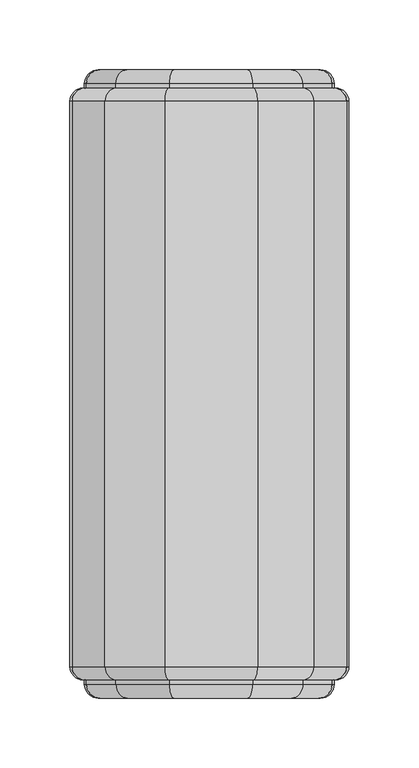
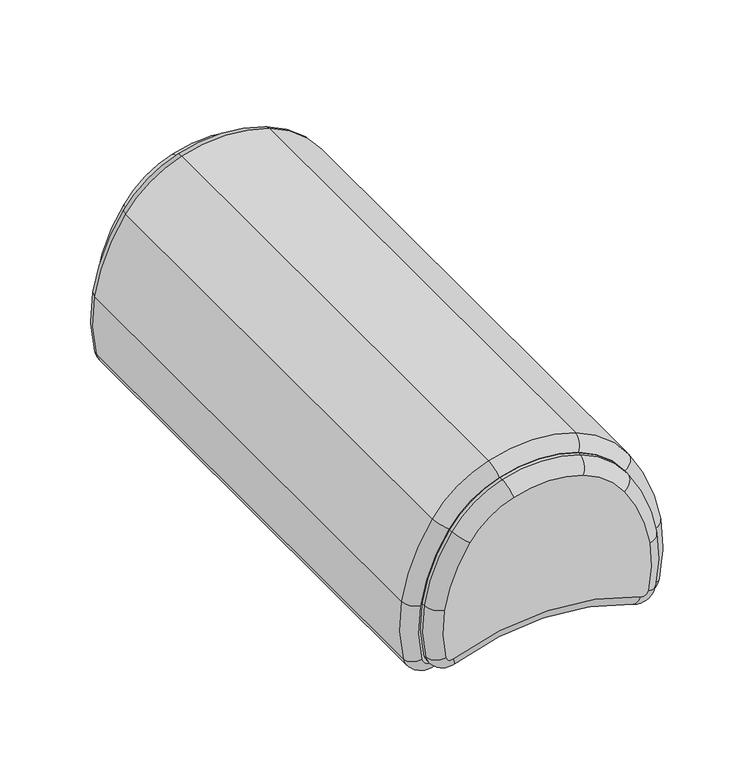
"""IFC4 building model written with IfcOpenShell, lengths in millimetres: furniture geometry, Norr11 - Studio Sofa - Armrest : Norr11 - Studio Sofa - Armrest."""

from ifc_helpers import new_model, si_unit, point, frame, origin, place, context, project, spatial, polyline, circle_curve, ellipse_curve, trimmed, source, transform, mapped, element, save
from ifc_brep_helpers import plane_surface, cylinder_surface, revolved_surface, advanced_brep


def furniture_424b01a7(model_context):
    return source(origin(), model_context, "Body", "AdvancedBrep", [
        advanced_brep(
        [(66.9447962, -204.9289958, 111.981819), (31.5157521, -204.9289958, 139.306944), (-29.0950488, -204.9289958, 140.1451483), (-66.9774771, -204.9289958, 111.9344281), (-88.9813494, -204.9289958, 57.5058221), (-87.6902973, -204.9289958, 14.1069127), (-78.8926377, -204.9289958, 9.7471256), (78.8082156, -204.9289958, 9.7860666), (87.7030919, -204.9289958, 14.1630397), (88.990785, -204.9289958, 57.4490338), (31.5157521, 218.6965585, 139.306944), (66.9447962, 218.6965585, 111.981819), (88.990785, 218.6965585, 57.4490338), (87.7030919, 218.6965585, 14.1630397), (78.8082156, 218.6965585, 9.7860666), (-78.8926377, 218.6965585, 9.7471256), (-87.6902973, 218.6965585, 14.1069127), (-88.9813494, 218.6965585, 57.5058221), (-66.9774771, 218.6965585, 111.9344281), (-29.0950488, 218.6965585, 140.1451483), (-32.0311437, -195.4856131, 149.1204936), (-32.0311437, 209.2531794, 149.1204936), (-74.7352002, 209.2531757, 117.3191482), (-74.7352002, -195.4856131, 117.3191482), (-98.3016924, 209.2531757, 59.0252579), (-98.3016924, -195.4856131, 59.0252579), (-96.9038364, 209.2531757, 12.0361219), (-96.9038364, -195.4856131, 12.0361219), (34.698922, -195.4856131, 148.1976642), (34.698922, 209.2531794, 148.1976642), (74.7352002, -195.4856131, 117.3191482), (74.7352002, 209.2531794, 117.3191482), (96.9038364, -195.4856131, 12.0361219), (96.9038364, 209.2531796, 12.0361219), (98.3016924, 209.2531757, 59.0252579), (98.3016924, -195.4856131, 59.0252579), (74.879796, -195.4856131, 1.1985759), (74.879796, 209.2531821, 1.1985759), (-74.9599776, 209.2531757, 1.161576), (-74.9599776, -195.4856131, 1.161576)],
        [
            (0, 1, circle_curve(frame((7.0375808, -204.9289958, 70.9384362), z_axis=(0.0, -1.0, 0.0), x_axis=(0.33707940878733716, 0.0, 0.9414762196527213)), 72.6184117)),
            (1, 2, circle_curve(frame((-0.0132768, -204.9289958, 51.2451098), z_axis=(0.0, -1.0, 0.0), x_axis=(-0.310915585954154, 0.0, 0.9504375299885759)), 93.5359091)),
            (2, 3, circle_curve(frame((-6.0268236, -204.9289958, 69.6279148), z_axis=(0.0, -1.0, 0.0), x_axis=(-0.8214983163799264, 0.0, 0.5702109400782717)), 74.1944959)),
            (3, 4, circle_curve(frame((42.2621047, -204.9289958, 36.1100431), z_axis=(0.0, -1.0, 0.0), x_axis=(-0.9869707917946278, 0.0, 0.16089952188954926)), 132.9760264)),
            (4, 5, circle_curve(frame((23.683606, -204.9289958, 39.1387766), z_axis=(0.0, -1.0, 0.0), x_axis=(-0.9756608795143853, 0.0, -0.2192848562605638)), 114.152269)),
            (5, 6, circle_curve(frame((-81.5244406, -204.9289958, 15.4927211), z_axis=(0.0, -1.0, 0.0), x_axis=(0.4164461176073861, 0.0, -0.9091603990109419)), 6.319672)),
            (6, 7, circle_curve(frame((0.0003235, -204.9289958, -162.4872959), z_axis=(0.0, 1.0, 0.0), x_axis=(0.41599706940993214, 0.0, 0.9093659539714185)), 189.4433827)),
            (7, 8, circle_curve(frame((81.4696803, -204.9289958, 15.6040051), z_axis=(0.0, -1.0, 0.0), x_axis=(0.9743059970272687, 0.0, -0.22522838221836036)), 6.3977967)),
            (8, 9, circle_curve(frame((-19.8443316, -204.9289958, 39.024564), z_axis=(0.0, -1.0, 0.0), x_axis=(0.9859716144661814, 0.0, 0.16691307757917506)), 110.3836206)),
            (9, 0, circle_curve(frame((-46.0093509, -204.9289958, 34.5951425), z_axis=(0.0, -1.0, 0.0), x_axis=(0.8249590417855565, 0.0, 0.5651925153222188)), 136.9209153)),
            (10, 11, circle_curve(frame((7.0375808, 218.6965585, 70.9384362), z_axis=(0.0, 1.0, 0.0), x_axis=(0.33707940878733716, 0.0, 0.9414762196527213)), 72.6184117)),
            (11, 12, circle_curve(frame((-46.0093509, 218.6965585, 34.5951425), z_axis=(0.0, 1.0, 0.0), x_axis=(0.8249590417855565, 0.0, 0.5651925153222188)), 136.9209153)),
            (12, 13, circle_curve(frame((-19.8443316, 218.6965585, 39.024564), z_axis=(0.0, 1.0, 0.0), x_axis=(0.9859716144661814, 0.0, 0.16691307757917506)), 110.3836206)),
            (13, 14, circle_curve(frame((81.4696803, 218.6965585, 15.6040051), z_axis=(0.0, 1.0, 0.0), x_axis=(0.9743059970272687, 0.0, -0.22522838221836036)), 6.3977967)),
            (14, 15, circle_curve(frame((0.0003235, 218.6965585, -162.4872959), z_axis=(0.0, -1.0, 0.0), x_axis=(0.41599706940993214, 0.0, 0.9093659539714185)), 189.4433827)),
            (15, 16, circle_curve(frame((-81.5244406, 218.6965585, 15.4927211), z_axis=(0.0, 1.0, 0.0), x_axis=(0.4164461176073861, 0.0, -0.9091603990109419)), 6.319672)),
            (16, 17, circle_curve(frame((23.683606, 218.6965585, 39.1387766), z_axis=(0.0, 1.0, 0.0), x_axis=(-0.9756608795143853, 0.0, -0.2192848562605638)), 114.152269)),
            (17, 18, circle_curve(frame((42.2621047, 218.6965585, 36.1100431), z_axis=(0.0, 1.0, 0.0), x_axis=(-0.9869707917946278, 0.0, 0.16089952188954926)), 132.9760264)),
            (18, 19, circle_curve(frame((-6.0268236, 218.6965585, 69.6279148), z_axis=(0.0, 1.0, 0.0), x_axis=(-0.8214983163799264, 0.0, 0.5702109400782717)), 74.1944959)),
            (19, 10, circle_curve(frame((-0.0132768, 218.6965585, 51.2451098), z_axis=(0.0, 1.0, 0.0), x_axis=(-0.310915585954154, 0.0, 0.9504375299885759)), 93.5359091)),
            (20, 21),
            (21, 22, circle_curve(frame((-6.0268236, 209.2531757, 69.6279148), z_axis=(0.0, -1.0, 0.0), x_axis=(1.0, 0.0, 0.0)), 83.6378787)),
            (22, 23),
            (23, 20, circle_curve(frame((-6.0268236, -195.4856131, 69.6279148), z_axis=(0.0, 1.0, 0.0), x_axis=(1.0, 0.0, 0.0)), 83.6378787)),
            (22, 24, circle_curve(frame((42.2621047, 209.2531757, 36.1100431), z_axis=(0.0, -1.0, 0.0), x_axis=(1.0, 0.0, 0.0)), 142.4194091)),
            (24, 25),
            (25, 23, circle_curve(frame((42.2621047, -195.4856131, 36.1100431), z_axis=(0.0, 1.0, 0.0), x_axis=(1.0, 0.0, 0.0)), 142.4194091)),
            (24, 26, circle_curve(frame((23.683606, 209.2531757, 39.1387766), z_axis=(0.0, -1.0, 0.0), x_axis=(1.0, 0.0, 0.0)), 123.5956518)),
            (26, 27),
            (27, 25, circle_curve(frame((23.683606, -195.4856131, 39.1387766), z_axis=(0.0, 1.0, 0.0), x_axis=(1.0, 0.0, 0.0)), 123.5956518)),
            (20, 28, circle_curve(frame((-0.0132768, -195.4856131, 51.2451098), z_axis=(0.0, 1.0, 0.0), x_axis=(1.0, 0.0, 0.0)), 102.9792919)),
            (28, 29),
            (29, 21, circle_curve(frame((-0.0132768, 209.2531757, 51.2451098), z_axis=(0.0, -1.0, 0.0), x_axis=(1.0, 0.0, 0.0)), 102.9792919)),
            (28, 30, circle_curve(frame((7.0375808, -195.4856131, 70.9384362), z_axis=(0.0, 1.0, 0.0), x_axis=(1.0, 0.0, 0.0)), 82.0617945)),
            (30, 31),
            (31, 29, circle_curve(frame((7.0375808, 209.2531757, 70.9384362), z_axis=(0.0, -1.0, 0.0), x_axis=(1.0, 0.0, 0.0)), 82.0617945)),
            (32, 33),
            (33, 34, circle_curve(frame((-19.8443316, 209.2531757, 39.024564), z_axis=(0.0, -1.0, 0.0), x_axis=(1.0, 0.0, 0.0)), 119.8270034)),
            (34, 35),
            (35, 32, circle_curve(frame((-19.8443316, -195.4856131, 39.024564), z_axis=(0.0, 1.0, 0.0), x_axis=(1.0, 0.0, 0.0)), 119.8270034)),
            (30, 35, circle_curve(frame((-46.0093509, -195.4856131, 34.5951425), z_axis=(0.0, 1.0, 0.0), x_axis=(1.0, 0.0, 0.0)), 146.3642981)),
            (34, 31, circle_curve(frame((-46.0093509, 209.2531757, 34.5951425), z_axis=(0.0, -1.0, 0.0), x_axis=(1.0, 0.0, 0.0)), 146.3642981)),
            (32, 36, circle_curve(frame((81.4696803, -195.4856131, 15.6040051), z_axis=(0.0, 1.0, 0.0), x_axis=(1.0, 0.0, 0.0)), 15.8411794)),
            (36, 37),
            (37, 33, circle_curve(frame((81.4696803, 209.2531757, 15.6040051), z_axis=(0.0, -1.0, 0.0), x_axis=(1.0, 0.0, 0.0)), 15.8411794)),
            (26, 38, circle_curve(frame((-81.5244406, 209.2531757, 15.4927211), z_axis=(0.0, -1.0, 0.0), x_axis=(1.0, 0.0, 0.0)), 15.7630547)),
            (38, 39),
            (39, 27, circle_curve(frame((-81.5244406, -195.4856131, 15.4927211), z_axis=(0.0, 1.0, 0.0), x_axis=(1.0, 0.0, 0.0)), 15.7630547)),
            (36, 39, circle_curve(frame((0.0003235, -195.4856131, -162.4872959), z_axis=(0.0, -1.0, 0.0), x_axis=(1.0, 0.0, 0.0)), 180.0)),
            (38, 37, circle_curve(frame((0.0003235, 209.2531757, -162.4872959), z_axis=(0.0, 1.0, 0.0), x_axis=(1.0, 0.0, 0.0)), 180.0)),
            (0, 30, circle_curve(frame((66.9447962, -195.4856131, 111.981819), z_axis=(-0.5651925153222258, 0.0, 0.8249590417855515), x_axis=(0.0, -1.0, 0.0)), 9.4433827)),
            (28, 1, circle_curve(frame((31.5157521, -195.4856131, 139.306944), z_axis=(0.9414762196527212, 0.0, -0.3370794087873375), x_axis=(0.0, -1.0, 0.0)), 9.4433827)),
            (31, 11, circle_curve(frame((66.9447962, 209.2531757, 111.981819), z_axis=(-0.5651925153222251, 0.0, 0.824959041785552), x_axis=(0.0, 1.0, 0.0)), 9.4433827)),
            (10, 29, circle_curve(frame((31.5157521, 209.2531757, 139.306944), z_axis=(0.9414762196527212, 0.0, -0.3370794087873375), x_axis=(0.0, 1.0, 0.0)), 9.4433827)),
            (9, 35, circle_curve(frame((88.990785, -195.4856131, 57.4490338), z_axis=(-0.16691307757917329, 0.0, 0.9859716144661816), x_axis=(0.0, -1.0, 0.0)), 9.4433827)),
            (34, 12, circle_curve(frame((88.990785, 209.2531757, 57.4490338), z_axis=(-0.16691307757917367, 0.0, 0.9859716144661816), x_axis=(0.0, 1.0, 0.0)), 9.4433827)),
            (8, 32, circle_curve(frame((87.7030919, -195.4856131, 14.1630397), z_axis=(0.2252283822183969, 0.0, 0.9743059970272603), x_axis=(0.0, -1.0, 0.0)), 9.4433827)),
            (33, 13, circle_curve(frame((87.7030919, 209.2531757, 14.1630397), z_axis=(0.2252283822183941, 0.0, 0.974305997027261), x_axis=(0.0, 1.0, 0.0)), 9.4433827)),
            (7, 36, circle_curve(frame((78.8082156, -195.4856131, 9.7860666), z_axis=(0.9093659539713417, 0.0, -0.4159970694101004), x_axis=(0.0, -1.0, 0.0)), 9.4433827)),
            (37, 14, circle_curve(frame((78.8082156, 209.2531757, 9.7860666), z_axis=(0.9093659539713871, 0.0, -0.41599706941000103), x_axis=(0.0, 1.0, 0.0)), 9.4433827)),
            (6, 39, circle_curve(frame((-78.8926377, -195.4856131, 9.7471256), z_axis=(0.9091603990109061, 0.0, 0.41644611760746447), x_axis=(0.0, -1.0, 0.0)), 9.4433827)),
            (38, 15, circle_curve(frame((-78.8926377, 209.2531757, 9.7471256), z_axis=(0.9091603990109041, 0.0, 0.4164461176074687), x_axis=(0.0, 1.0, 0.0)), 9.4433827)),
            (5, 27, circle_curve(frame((-87.6902973, -195.4856131, 14.1069127), z_axis=(0.21928485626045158, 0.0, -0.9756608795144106), x_axis=(0.0, -1.0, 0.0)), 9.4433827)),
            (26, 16, circle_curve(frame((-87.6902973, 209.2531757, 14.1069127), z_axis=(0.21928485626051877, 0.0, -0.9756608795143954), x_axis=(0.0, 1.0, 0.0)), 9.4433827)),
            (4, 25, circle_curve(frame((-88.9813494, -195.4856131, 57.5058221), z_axis=(-0.1608995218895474, 0.0, -0.986970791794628), x_axis=(0.0, -1.0, 0.0)), 9.4433827)),
            (24, 17, circle_curve(frame((-88.9813494, 209.2531757, 57.5058221), z_axis=(-0.16089952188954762, 0.0, -0.986970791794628), x_axis=(0.0, 1.0, 0.0)), 9.4433827)),
            (3, 23, circle_curve(frame((-66.9774771, -195.4856131, 111.9344281), z_axis=(-0.5702109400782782, 0.0, -0.8214983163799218), x_axis=(0.0, -1.0, 0.0)), 9.4433827)),
            (22, 18, circle_curve(frame((-66.9774771, 209.2531757, 111.9344281), z_axis=(-0.5702109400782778, 0.0, -0.8214983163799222), x_axis=(0.0, 1.0, 0.0)), 9.4433827)),
            (2, 20, circle_curve(frame((-29.0950488, -195.4856131, 140.1451483), z_axis=(-0.950437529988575, 0.0, -0.31091558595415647), x_axis=(0.0, -1.0, 0.0)), 9.4433827)),
            (21, 19, circle_curve(frame((-29.0950488, 209.2531757, 140.1451483), z_axis=(-0.9504375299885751, 0.0, -0.31091558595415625), x_axis=(0.0, 1.0, 0.0)), 9.4433827)),
        ],
        [
            plane_surface(frame((77.611055, -204.9289958, 69.6279148), z_axis=(0.0, -1.0, 0.0), x_axis=(0.0, 0.0, 1.0))),
            plane_surface(frame((77.611055, 218.6965585, 69.6279148), z_axis=(0.0, 1.0, 0.0), x_axis=(0.0, 0.0, -1.0))),
            cylinder_surface(frame((-6.0268236, 218.6965585, 69.6279148), z_axis=(0.0, -1.0, 0.0), x_axis=(1.0, 0.0, 0.0)), 83.6378787),
            cylinder_surface(frame((42.2621047, 218.6965585, 36.1100431), z_axis=(0.0, -1.0, 0.0), x_axis=(1.0, 0.0, 0.0)), 142.4194091),
            cylinder_surface(frame((23.683606, 218.6965585, 39.1387766), z_axis=(0.0, -1.0, 0.0), x_axis=(1.0, 0.0, 0.0)), 123.5956518),
            cylinder_surface(frame((-0.0132768, 218.6965585, 51.2451098), z_axis=(0.0, -1.0, 0.0), x_axis=(1.0, 0.0, 0.0)), 102.9792919),
            cylinder_surface(frame((7.0375808, 218.6965585, 70.9384362), z_axis=(0.0, -1.0, 0.0), x_axis=(1.0, 0.0, 0.0)), 82.0617945),
            cylinder_surface(frame((-19.8443316, 218.6965585, 39.024564), z_axis=(0.0, -1.0, 0.0), x_axis=(1.0, 0.0, 0.0)), 119.8270034),
            cylinder_surface(frame((-46.0093509, 218.6965585, 34.5951425), z_axis=(0.0, -1.0, 0.0), x_axis=(1.0, 0.0, 0.0)), 146.3642981),
            cylinder_surface(frame((81.4696803, 218.6965585, 15.6040051), z_axis=(0.0, -1.0, 0.0), x_axis=(1.0, 0.0, 0.0)), 15.8411794),
            cylinder_surface(frame((-81.5244406, 218.6965585, 15.4927211), z_axis=(0.0, -1.0, 0.0), x_axis=(1.0, 0.0, 0.0)), 15.7630547),
            revolved_surface(polyline([(180.0003235, 209.2531821, -162.4872959), (180.0003235, -195.4856131, -162.4872959)]), (0.0003235, 218.6965585, -162.4872959), (0.0, 1.0, 0.0)),
            revolved_surface(trimmed(ellipse_curve(frame((31.5157521, -195.4856131, 139.306944), z_axis=(-0.9414762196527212, 0.0, 0.3370794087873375), x_axis=(0.0, -1.0, 0.0)), 9.4433827, 9.4433827), [point((31.5157521, -204.9289958, 139.306944))], [point((34.698922, -195.4856131, 148.1976642))], True, "CARTESIAN"), (7.0375808, -204.9289958, 70.9384362), (0.0, 1.0, 0.0)),
            revolved_surface(trimmed(ellipse_curve(frame((31.5157521, 209.2531757, 139.306944), z_axis=(-0.9414762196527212, 0.0, 0.3370794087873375), x_axis=(0.0, 1.0, 0.0)), 9.4433827, 9.4433827), [point((34.698922, 209.2531757, 148.1976642))], [point((31.5157521, 218.6965585, 139.306944))], True, "CARTESIAN"), (7.0375808, -204.9289958, 70.9384362), (0.0, 1.0, 0.0)),
            revolved_surface(trimmed(ellipse_curve(frame((66.9447962, -195.4856131, 111.981819), z_axis=(-0.5651925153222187, 0.0, 0.8249590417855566), x_axis=(0.0, -1.0, 0.0)), 9.4433827, 9.4433827), [point((66.9447962, -204.9289958, 111.981819))], [point((74.7352002, -195.4856131, 117.3191482))], True, "CARTESIAN"), (-46.0093509, -204.9289958, 34.5951425), (0.0, 1.0, 0.0)),
            revolved_surface(trimmed(ellipse_curve(frame((66.9447962, 209.2531757, 111.981819), z_axis=(-0.5651925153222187, 0.0, 0.8249590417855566), x_axis=(0.0, 1.0, 0.0)), 9.4433827, 9.4433827), [point((74.7352002, 209.2531757, 117.3191482))], [point((66.9447962, 218.6965585, 111.981819))], True, "CARTESIAN"), (-46.0093509, -204.9289958, 34.5951425), (0.0, 1.0, 0.0)),
            revolved_surface(trimmed(ellipse_curve(frame((88.990785, -195.4856131, 57.4490338), z_axis=(-0.16691307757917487, 0.0, 0.9859716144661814), x_axis=(0.0, -1.0, 0.0)), 9.4433827, 9.4433827), [point((88.990785, -204.9289958, 57.4490338))], [point((98.3016924, -195.4856131, 59.0252579))], True, "CARTESIAN"), (-19.8443316, -204.9289958, 39.024564), (0.0, 1.0, 0.0)),
            revolved_surface(trimmed(ellipse_curve(frame((88.990785, 209.2531757, 57.4490338), z_axis=(-0.16691307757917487, 0.0, 0.9859716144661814), x_axis=(0.0, 1.0, 0.0)), 9.4433827, 9.4433827), [point((98.3016924, 209.2531757, 59.0252579))], [point((88.990785, 218.6965585, 57.4490338))], True, "CARTESIAN"), (-19.8443316, -204.9289958, 39.024564), (0.0, 1.0, 0.0)),
            revolved_surface(trimmed(ellipse_curve(frame((87.7030919, -195.4856131, 14.1630397), z_axis=(0.22522838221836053, 0.0, 0.9743059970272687), x_axis=(0.0, -1.0, 0.0)), 9.4433827, 9.4433827), [point((87.7030919, -204.9289958, 14.1630397))], [point((96.9038364, -195.4856131, 12.0361219))], True, "CARTESIAN"), (81.4696803, -204.9289958, 15.6040051), (0.0, 1.0, 0.0)),
            revolved_surface(trimmed(ellipse_curve(frame((87.7030919, 209.2531757, 14.1630397), z_axis=(0.22522838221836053, 0.0, 0.9743059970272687), x_axis=(0.0, 1.0, 0.0)), 9.4433827, 9.4433827), [point((96.9038364, 209.2531757, 12.0361219))], [point((87.7030919, 218.6965585, 14.1630397))], True, "CARTESIAN"), (81.4696803, -204.9289958, 15.6040051), (0.0, 1.0, 0.0)),
            revolved_surface(trimmed(ellipse_curve(frame((78.8082156, -195.4856131, 9.7860666), z_axis=(0.9093659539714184, 0.0, -0.4159970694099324), x_axis=(0.0, -1.0, 0.0)), 9.4433827, 9.4433827), [point((78.8082156, -204.9289958, 9.7860666))], [point((74.879796, -195.4856131, 1.1985759))], True, "CARTESIAN"), (0.0003235, -204.9289958, -162.4872959), (0.0, -1.0, 0.0)),
            revolved_surface(trimmed(ellipse_curve(frame((78.8082156, 209.2531757, 9.7860666), z_axis=(0.9093659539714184, 0.0, -0.4159970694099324), x_axis=(0.0, 1.0, 0.0)), 9.4433827, 9.4433827), [point((74.879796, 209.2531757, 1.1985759))], [point((78.8082156, 218.6965585, 9.7860666))], True, "CARTESIAN"), (0.0003235, -204.9289958, -162.4872959), (0.0, -1.0, 0.0)),
            revolved_surface(trimmed(ellipse_curve(frame((-78.8926377, -195.4856131, 9.7471256), z_axis=(0.909160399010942, 0.0, 0.41644611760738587), x_axis=(0.0, -1.0, 0.0)), 9.4433827, 9.4433827), [point((-78.8926377, -204.9289958, 9.7471256))], [point((-74.9599776, -195.4856131, 1.161576))], True, "CARTESIAN"), (-81.5244406, -204.9289958, 15.4927211), (0.0, 1.0, 0.0)),
            revolved_surface(trimmed(ellipse_curve(frame((-78.8926377, 209.2531757, 9.7471256), z_axis=(0.909160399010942, 0.0, 0.41644611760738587), x_axis=(0.0, 1.0, 0.0)), 9.4433827, 9.4433827), [point((-74.9599776, 209.2531757, 1.161576))], [point((-78.8926377, 218.6965585, 9.7471256))], True, "CARTESIAN"), (-81.5244406, -204.9289958, 15.4927211), (0.0, 1.0, 0.0)),
            revolved_surface(trimmed(ellipse_curve(frame((-87.6902973, -195.4856131, 14.1069127), z_axis=(0.21928485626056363, 0.0, -0.9756608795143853), x_axis=(0.0, -1.0, 0.0)), 9.4433827, 9.4433827), [point((-87.6902973, -204.9289958, 14.1069127))], [point((-96.9038364, -195.4856131, 12.0361219))], True, "CARTESIAN"), (23.683606, -204.9289958, 39.1387766), (0.0, 1.0, 0.0)),
            revolved_surface(trimmed(ellipse_curve(frame((-87.6902973, 209.2531757, 14.1069127), z_axis=(0.21928485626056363, 0.0, -0.9756608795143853), x_axis=(0.0, 1.0, 0.0)), 9.4433827, 9.4433827), [point((-96.9038364, 209.2531757, 12.0361219))], [point((-87.6902973, 218.6965585, 14.1069127))], True, "CARTESIAN"), (23.683606, -204.9289958, 39.1387766), (0.0, 1.0, 0.0)),
            revolved_surface(trimmed(ellipse_curve(frame((-88.9813494, -195.4856131, 57.5058221), z_axis=(-0.16089952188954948, 0.0, -0.9869707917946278), x_axis=(0.0, -1.0, 0.0)), 9.4433827, 9.4433827), [point((-88.9813494, -204.9289958, 57.5058221))], [point((-98.3016924, -195.4856131, 59.0252579))], True, "CARTESIAN"), (42.2621047, -204.9289958, 36.1100431), (0.0, 1.0, 0.0)),
            revolved_surface(trimmed(ellipse_curve(frame((-88.9813494, 209.2531757, 57.5058221), z_axis=(-0.16089952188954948, 0.0, -0.9869707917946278), x_axis=(0.0, 1.0, 0.0)), 9.4433827, 9.4433827), [point((-98.3016924, 209.2531757, 59.0252579))], [point((-88.9813494, 218.6965585, 57.5058221))], True, "CARTESIAN"), (42.2621047, -204.9289958, 36.1100431), (0.0, 1.0, 0.0)),
            revolved_surface(trimmed(ellipse_curve(frame((-66.9774771, -195.4856131, 111.9344281), z_axis=(-0.5702109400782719, 0.0, -0.8214983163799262), x_axis=(0.0, -1.0, 0.0)), 9.4433827, 9.4433827), [point((-66.9774771, -204.9289958, 111.9344281))], [point((-74.7352002, -195.4856131, 117.3191482))], True, "CARTESIAN"), (-6.0268236, -204.9289958, 69.6279148), (0.0, 1.0, 0.0)),
            revolved_surface(trimmed(ellipse_curve(frame((-66.9774771, 209.2531757, 111.9344281), z_axis=(-0.5702109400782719, 0.0, -0.8214983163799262), x_axis=(0.0, 1.0, 0.0)), 9.4433827, 9.4433827), [point((-74.7352002, 209.2531757, 117.3191482))], [point((-66.9774771, 218.6965585, 111.9344281))], True, "CARTESIAN"), (-6.0268236, -204.9289958, 69.6279148), (0.0, 1.0, 0.0)),
            revolved_surface(trimmed(ellipse_curve(frame((-29.0950488, -195.4856131, 140.1451483), z_axis=(-0.950437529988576, 0.0, -0.3109155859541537), x_axis=(0.0, -1.0, 0.0)), 9.4433827, 9.4433827), [point((-29.0950488, -204.9289958, 140.1451483))], [point((-32.0311437, -195.4856131, 149.1204936))], True, "CARTESIAN"), (-0.0132768, -204.9289958, 51.2451098), (0.0, 1.0, 0.0)),
            revolved_surface(trimmed(ellipse_curve(frame((-29.0950488, 209.2531757, 140.1451483), z_axis=(-0.950437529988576, 0.0, -0.3109155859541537), x_axis=(0.0, 1.0, 0.0)), 9.4433827, 9.4433827), [point((-32.0311437, 209.2531757, 149.1204936))], [point((-29.0950488, 218.6965585, 140.1451483))], True, "CARTESIAN"), (-0.0132768, -204.9289958, 51.2451098), (0.0, 1.0, 0.0)),
        ],
        [
            (0, [[1, 2, 3, 4, 5, 6, 7, 8, 9, 10]]),
            (1, [[11, 12, 13, 14, 15, 16, 17, 18, 19, 20]]),
            (2, [[21, 22, 23, 24]]),
            (3, [[-23, 25, 26, 27]]),
            (4, [[-26, 28, 29, 30]]),
            (5, [[-21, 31, 32, 33]]),
            (6, [[-32, 34, 35, 36]]),
            (7, [[37, 38, 39, 40]]),
            (8, [[-35, 41, -39, 42]]),
            (9, [[-37, 43, 44, 45]]),
            (10, [[-29, 46, 47, 48]]),
            (11, [[-44, 49, -47, 50]]),
            (12, [[51, -34, 52, -1]]),
            (13, [[53, -11, 54, -36]]),
            (14, [[-51, -10, 55, -41]]),
            (15, [[-53, -42, 56, -12]]),
            (16, [[-55, -9, 57, -40]]),
            (17, [[-56, -38, 58, -13]]),
            (18, [[-57, -8, 59, -43]]),
            (19, [[-58, -45, 60, -14]]),
            (20, [[-59, -7, 61, -49]]),
            (21, [[-60, -50, 62, -15]]),
            (22, [[-61, -6, 63, -48]]),
            (23, [[-62, -46, 64, -16]]),
            (24, [[-63, -5, 65, -30]]),
            (25, [[-64, -28, 66, -17]]),
            (26, [[-65, -4, 67, -27]]),
            (27, [[-66, -25, 68, -18]]),
            (28, [[-67, -3, 69, -24]]),
            (29, [[-68, -22, 70, -19]]),
            (30, [[-52, -31, -69, -2]]),
            (31, [[-54, -20, -70, -33]]),
        ],
    ),
        advanced_brep(
        [(-28.6752194, -204.9289958, 140.2119602), (31.0634928, -204.9289958, 139.3858163), (66.9051434, -204.9289958, 111.742463), (88.0025585, -204.9289958, 59.5560624), (86.7511568, -204.9289958, 17.4900095), (67.60559, -204.9289958, 7.5417031), (-67.7048989, -204.9289958, 7.5228429), (-86.7511568, -204.9289958, 17.4900095), (-88.0025585, -204.9289958, 59.5560624), (-66.9051434, -204.9289958, 111.742463), (58.655553, -218.0373157, 106.0905378), (27.6926987, -218.0373157, 129.9710541), (-25.5660636, -218.0373157, 130.7075849), (-58.6901602, -218.0373157, 106.0403536), (-78.1328506, -218.0373157, 57.9470672), (-76.994548, -218.0373157, 19.6828581), (-71.4648153, -218.0373157, 16.7890735), (71.362923, -218.0373157, 16.8089814), (77.0080968, -218.0373157, 19.7422933), (78.1428423, -218.0373157, 57.8869316), (-66.9051434, -208.0373157, 111.742463), (-28.6752194, -208.0373157, 140.2119602), (-88.0025585, -208.0373157, 59.5560624), (-86.7511568, -208.0373157, 17.4900095), (-67.7048989, -208.0373157, 7.5228429), (31.0634928, -208.0373157, 139.3858163), (66.9051434, -208.0373157, 111.742463), (88.0025585, -208.0373157, 59.5560624), (86.7511568, -208.0373157, 17.4900095), (67.60559, -208.0373157, 7.5417031)],
        [
            (0, 1, circle_curve(frame((-0.0118858, -204.9289958, 52.5910456), z_axis=(0.0, 1.0, 0.0), x_axis=(1.0, 0.0, 0.0)), 92.1900828)),
            (1, 2, circle_curve(frame((6.3002488, -204.9289958, 70.2210891), z_axis=(0.0, 1.0, 0.0), x_axis=(1.0, 0.0, 0.0)), 73.4641255)),
            (2, 3, circle_curve(frame((-41.1889205, -204.9289958, 37.6855065), z_axis=(0.0, 1.0, 0.0), x_axis=(1.0, 0.0, 0.0)), 131.0296129)),
            (3, 4, circle_curve(frame((-17.7652277, -204.9289958, 41.6508545), z_axis=(0.0, 1.0, 0.0), x_axis=(1.0, 0.0, 0.0)), 107.2726483)),
            (4, 5, circle_curve(frame((72.9340475, -204.9289958, 20.6840832), z_axis=(0.0, 1.0, 0.0), x_axis=(1.0, 0.0, 0.0)), 14.1814885)),
            (5, 6, circle_curve(frame((-0.0264049, -204.9289958, -159.2693076), z_axis=(0.0, -1.0, 0.0), x_axis=(1.0, 0.0, 0.0)), 180.0)),
            (6, 7, circle_curve(frame((-73.0030311, -204.9289958, 20.5799723), z_axis=(0.0, 1.0, 0.0), x_axis=(1.0, 0.0, 0.0)), 14.0910905)),
            (7, 8, circle_curve(frame((21.2022588, -204.9289958, 41.753101), z_axis=(0.0, 1.0, 0.0), x_axis=(1.0, 0.0, 0.0)), 110.6464529)),
            (8, 9, circle_curve(frame((37.8342758, -204.9289958, 39.0416899), z_axis=(0.0, 1.0, 0.0), x_axis=(1.0, 0.0, 0.0)), 127.4980327)),
            (9, 0, circle_curve(frame((-5.3953893, -204.9289958, 69.0478719), z_axis=(0.0, 1.0, 0.0), x_axis=(1.0, 0.0, 0.0)), 74.8750824)),
            (10, 11, circle_curve(frame((6.3002488, -218.0373157, 70.2210891), z_axis=(0.0, -1.0, 0.0), x_axis=(0.33707940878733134, 0.0, 0.9414762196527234)), 63.4641255)),
            (11, 12, circle_curve(frame((-0.0118858, -218.0373157, 52.5910456), z_axis=(0.0, -1.0, 0.0), x_axis=(-0.3109155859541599, 0.0, 0.950437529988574)), 82.1900828)),
            (12, 13, circle_curve(frame((-5.3953893, -218.0373157, 69.0478719), z_axis=(0.0, -1.0, 0.0), x_axis=(-0.82149831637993, 0.0, 0.5702109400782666)), 64.8750824)),
            (13, 14, circle_curve(frame((37.8342758, -218.0373157, 39.0416899), z_axis=(0.0, -1.0, 0.0), x_axis=(-0.9869707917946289, 0.0, 0.16089952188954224)), 117.4980327)),
            (14, 15, circle_curve(frame((21.2022588, -218.0373157, 41.753101), z_axis=(0.0, -1.0, 0.0), x_axis=(-0.9756608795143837, 0.0, -0.21928485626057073)), 100.6464529)),
            (15, 16, circle_curve(frame((-73.0030311, -218.0373157, 20.5799723), z_axis=(0.0, -1.0, 0.0), x_axis=(0.37599163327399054, 0.0, -0.9266230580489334)), 4.0910905)),
            (16, 17, circle_curve(frame((-0.0264049, -218.0373157, -159.2693076), z_axis=(0.0, 1.0, 0.0), x_axis=(0.37573330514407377, 0.0, 0.9267278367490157)), 190.0)),
            (17, 18, circle_curve(frame((72.9340475, -218.0373157, 20.6840832), z_axis=(0.0, -1.0, 0.0), x_axis=(0.9743059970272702, 0.0, -0.22522838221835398)), 4.1814885)),
            (18, 19, circle_curve(frame((-17.7652277, -218.0373157, 41.6508545), z_axis=(0.0, -1.0, 0.0), x_axis=(0.9859716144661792, 0.0, 0.16691307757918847)), 97.2726483)),
            (19, 10, circle_curve(frame((-41.1889205, -218.0373157, 37.6855065), z_axis=(0.0, -1.0, 0.0), x_axis=(0.8249590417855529, 0.0, 0.5651925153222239)), 121.0296129)),
            (9, 20),
            (20, 21, circle_curve(frame((-5.3953893, -208.0373157, 69.0478719), z_axis=(0.0, 1.0, 0.0), x_axis=(1.0, 0.0, 0.0)), 74.8750824)),
            (21, 0),
            (8, 22),
            (22, 20, circle_curve(frame((37.8342758, -208.0373157, 39.0416899), z_axis=(0.0, 1.0, 0.0), x_axis=(1.0, 0.0, 0.0)), 127.4980327)),
            (7, 23),
            (23, 22, circle_curve(frame((21.2022588, -208.0373157, 41.753101), z_axis=(0.0, 1.0, 0.0), x_axis=(1.0, 0.0, 0.0)), 110.6464529)),
            (6, 24),
            (24, 23, circle_curve(frame((-73.0030311, -208.0373157, 20.5799723), z_axis=(0.0, 1.0, 0.0), x_axis=(1.0, 0.0, 0.0)), 14.0910905)),
            (21, 25, circle_curve(frame((-0.0118858, -208.0373157, 52.5910456), z_axis=(0.0, 1.0, 0.0), x_axis=(1.0, 0.0, 0.0)), 92.1900828)),
            (25, 1),
            (25, 26, circle_curve(frame((6.3002488, -208.0373157, 70.2210891), z_axis=(0.0, 1.0, 0.0), x_axis=(1.0, 0.0, 0.0)), 73.4641255)),
            (26, 2),
            (3, 27),
            (27, 28, circle_curve(frame((-17.7652277, -208.0373157, 41.6508545), z_axis=(0.0, 1.0, 0.0), x_axis=(1.0, 0.0, 0.0)), 107.2726483)),
            (28, 4),
            (26, 27, circle_curve(frame((-41.1889205, -208.0373157, 37.6855065), z_axis=(0.0, 1.0, 0.0), x_axis=(1.0, 0.0, 0.0)), 131.0296129)),
            (28, 29, circle_curve(frame((72.9340475, -208.0373157, 20.6840832), z_axis=(0.0, 1.0, 0.0), x_axis=(1.0, 0.0, 0.0)), 14.1814885)),
            (29, 5),
            (29, 24, circle_curve(frame((-0.0264049, -208.0373157, -159.2693076), z_axis=(0.0, -1.0, 0.0), x_axis=(1.0, 0.0, 0.0)), 180.0)),
            (10, 26, circle_curve(frame((58.655553, -208.0373157, 106.0905378), z_axis=(-0.5651925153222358, 0.0, 0.8249590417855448), x_axis=(0.0, -1.0, 0.0)), 10.0)),
            (25, 11, circle_curve(frame((27.6926987, -208.0373157, 129.9710541), z_axis=(0.9414762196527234, 0.0, -0.3370794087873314), x_axis=(0.0, -1.0, 0.0)), 10.0)),
            (19, 27, circle_curve(frame((78.1428423, -208.0373157, 57.8869316), z_axis=(-0.16691307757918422, 0.0, 0.9859716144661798), x_axis=(0.0, -1.0, 0.0)), 10.0)),
            (18, 28, circle_curve(frame((77.0080968, -208.0373157, 19.7422933), z_axis=(0.2252283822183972, 0.0, 0.9743059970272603), x_axis=(0.0, -1.0, 0.0)), 10.0)),
            (17, 29, circle_curve(frame((71.362923, -208.0373157, 16.8089814), z_axis=(0.9267278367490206, 0.0, -0.37573330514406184), x_axis=(0.0, -1.0, 0.0)), 10.0)),
            (16, 24, circle_curve(frame((-71.4648153, -208.0373157, 16.7890735), z_axis=(0.9266230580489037, 0.0, 0.3759916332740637), x_axis=(0.0, -1.0, 0.0)), 10.0)),
            (15, 23, circle_curve(frame((-76.994548, -208.0373157, 19.6828581), z_axis=(0.21928485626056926, 0.0, -0.975660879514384), x_axis=(0.0, -1.0, 0.0)), 10.0)),
            (14, 22, circle_curve(frame((-78.1328506, -208.0373157, 57.9470672), z_axis=(-0.16089952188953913, 0.0, -0.9869707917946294), x_axis=(0.0, -1.0, 0.0)), 10.0)),
            (13, 20, circle_curve(frame((-58.6901602, -208.0373157, 106.0403536), z_axis=(-0.5702109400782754, 0.0, -0.8214983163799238), x_axis=(0.0, -1.0, 0.0)), 10.0)),
            (12, 21, circle_curve(frame((-25.5660636, -208.0373157, 130.7075849), z_axis=(-0.9504375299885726, 0.0, -0.31091558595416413), x_axis=(0.0, -1.0, 0.0)), 10.0)),
        ],
        [
            plane_surface(frame((92.178197, -204.9289958, 52.5910456), z_axis=(0.0, 1.0, 0.0), x_axis=(0.0, 0.0, -1.0))),
            plane_surface(frame((92.178197, -218.0373157, 52.5910456), z_axis=(0.0, -1.0, 0.0), x_axis=(0.0, 0.0, 1.0))),
            cylinder_surface(frame((-5.3953893, -218.0373157, 69.0478719), z_axis=(0.0, 1.0, 0.0), x_axis=(1.0, 0.0, 0.0)), 74.8750824),
            cylinder_surface(frame((37.8342758, -218.0373157, 39.0416899), z_axis=(0.0, 1.0, 0.0), x_axis=(1.0, 0.0, 0.0)), 127.4980327),
            cylinder_surface(frame((21.2022588, -218.0373157, 41.753101), z_axis=(0.0, 1.0, 0.0), x_axis=(1.0, 0.0, 0.0)), 110.6464529),
            cylinder_surface(frame((-73.0030311, -218.0373157, 20.5799723), z_axis=(0.0, 1.0, 0.0), x_axis=(1.0, 0.0, 0.0)), 14.0910905),
            cylinder_surface(frame((-0.0118858, -218.0373157, 52.5910456), z_axis=(0.0, 1.0, 0.0), x_axis=(1.0, 0.0, 0.0)), 92.1900828),
            cylinder_surface(frame((6.3002488, -218.0373157, 70.2210891), z_axis=(0.0, 1.0, 0.0), x_axis=(1.0, 0.0, 0.0)), 73.4641255),
            cylinder_surface(frame((-17.7652277, -218.0373157, 41.6508545), z_axis=(0.0, 1.0, 0.0), x_axis=(1.0, 0.0, 0.0)), 107.2726483),
            cylinder_surface(frame((-41.1889205, -218.0373157, 37.6855065), z_axis=(0.0, 1.0, 0.0), x_axis=(1.0, 0.0, 0.0)), 131.0296129),
            cylinder_surface(frame((72.9340475, -218.0373157, 20.6840832), z_axis=(0.0, 1.0, 0.0), x_axis=(1.0, 0.0, 0.0)), 14.1814885),
            revolved_surface(polyline([(179.9735951, -208.0373157, -159.2693076), (179.9735951, -204.9289958, -159.2693076)]), (-0.0264049, -218.0373157, -159.2693076), (0.0, -1.0, 0.0)),
            revolved_surface(trimmed(ellipse_curve(frame((27.6926987, -208.0373157, 129.9710541), z_axis=(-0.9414762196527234, 0.0, 0.3370794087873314), x_axis=(0.0, -1.0, 0.0)), 10.0, 10.0), [point((27.6926987, -218.0373157, 129.9710541))], [point((31.0634928, -208.0373157, 139.3858163))], True, "CARTESIAN"), (6.3002488, -218.0373157, 70.2210891), (0.0, 1.0, 0.0)),
            revolved_surface(trimmed(ellipse_curve(frame((58.655553, -208.0373157, 106.0905378), z_axis=(-0.5651925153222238, 0.0, 0.824959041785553), x_axis=(0.0, -1.0, 0.0)), 10.0, 10.0), [point((58.655553, -218.0373157, 106.0905378))], [point((66.9051434, -208.0373157, 111.742463))], True, "CARTESIAN"), (-41.1889205, -218.0373157, 37.6855065), (0.0, 1.0, 0.0)),
            revolved_surface(trimmed(ellipse_curve(frame((78.1428423, -208.0373157, 57.8869316), z_axis=(-0.16691307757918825, 0.0, 0.9859716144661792), x_axis=(0.0, -1.0, 0.0)), 10.0, 10.0), [point((78.1428423, -218.0373157, 57.8869316))], [point((88.0025585, -208.0373157, 59.5560624))], True, "CARTESIAN"), (-17.7652277, -218.0373157, 41.6508545), (0.0, 1.0, 0.0)),
            revolved_surface(trimmed(ellipse_curve(frame((77.0080968, -208.0373157, 19.7422933), z_axis=(0.225228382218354, 0.0, 0.9743059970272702), x_axis=(0.0, -1.0, 0.0)), 10.0, 10.0), [point((77.0080968, -218.0373157, 19.7422933))], [point((86.7511568, -208.0373157, 17.4900095))], True, "CARTESIAN"), (72.9340475, -218.0373157, 20.6840832), (0.0, 1.0, 0.0)),
            revolved_surface(trimmed(ellipse_curve(frame((71.362923, -208.0373157, 16.8089814), z_axis=(0.9267278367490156, 0.0, -0.3757333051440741), x_axis=(0.0, -1.0, 0.0)), 10.0, 10.0), [point((71.362923, -218.0373157, 16.8089814))], [point((67.60559, -208.0373157, 7.5417031))], True, "CARTESIAN"), (-0.0264049, -218.0373157, -159.2693076), (0.0, -1.0, 0.0)),
            revolved_surface(trimmed(ellipse_curve(frame((-71.4648153, -208.0373157, 16.7890735), z_axis=(0.9266230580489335, 0.0, 0.3759916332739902), x_axis=(0.0, -1.0, 0.0)), 10.0, 10.0), [point((-71.4648153, -218.0373157, 16.7890735))], [point((-67.7048989, -208.0373157, 7.5228429))], True, "CARTESIAN"), (-73.0030311, -218.0373157, 20.5799723), (0.0, 1.0, 0.0)),
            revolved_surface(trimmed(ellipse_curve(frame((-76.994548, -208.0373157, 19.6828581), z_axis=(0.2192848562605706, 0.0, -0.9756608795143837), x_axis=(0.0, -1.0, 0.0)), 10.0, 10.0), [point((-76.994548, -218.0373157, 19.6828581))], [point((-86.7511568, -208.0373157, 17.4900095))], True, "CARTESIAN"), (21.2022588, -218.0373157, 41.753101), (0.0, 1.0, 0.0)),
            revolved_surface(trimmed(ellipse_curve(frame((-78.1328506, -208.0373157, 57.9470672), z_axis=(-0.1608995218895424, 0.0, -0.9869707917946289), x_axis=(0.0, -1.0, 0.0)), 10.0, 10.0), [point((-78.1328506, -218.0373157, 57.9470672))], [point((-88.0025585, -208.0373157, 59.5560624))], True, "CARTESIAN"), (37.8342758, -218.0373157, 39.0416899), (0.0, 1.0, 0.0)),
            revolved_surface(trimmed(ellipse_curve(frame((-58.6901602, -208.0373157, 106.0403536), z_axis=(-0.5702109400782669, 0.0, -0.8214983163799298), x_axis=(0.0, -1.0, 0.0)), 10.0, 10.0), [point((-58.6901602, -218.0373157, 106.0403536))], [point((-66.9051434, -208.0373157, 111.742463))], True, "CARTESIAN"), (-5.3953893, -218.0373157, 69.0478719), (0.0, 1.0, 0.0)),
            revolved_surface(trimmed(ellipse_curve(frame((-25.5660636, -208.0373157, 130.7075849), z_axis=(-0.9504375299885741, 0.0, -0.3109155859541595), x_axis=(0.0, -1.0, 0.0)), 10.0, 10.0), [point((-25.5660636, -218.0373157, 130.7075849))], [point((-28.6752194, -208.0373157, 140.2119602))], True, "CARTESIAN"), (-0.0118858, -218.0373157, 52.5910456), (0.0, 1.0, 0.0)),
        ],
        [
            (0, [[1, 2, 3, 4, 5, 6, 7, 8, 9, 10]]),
            (1, [[11, 12, 13, 14, 15, 16, 17, 18, 19, 20]]),
            (2, [[-10, 21, 22, 23]]),
            (3, [[-9, 24, 25, -21]]),
            (4, [[-8, 26, 27, -24]]),
            (5, [[-7, 28, 29, -26]]),
            (6, [[-1, -23, 30, 31]]),
            (7, [[-2, -31, 32, 33]]),
            (8, [[-4, 34, 35, 36]]),
            (9, [[-3, -33, 37, -34]]),
            (10, [[-5, -36, 38, 39]]),
            (11, [[-6, -39, 40, -28]]),
            (12, [[41, -32, 42, -11]]),
            (13, [[-41, -20, 43, -37]]),
            (14, [[-43, -19, 44, -35]]),
            (15, [[-44, -18, 45, -38]]),
            (16, [[-45, -17, 46, -40]]),
            (17, [[-46, -16, 47, -29]]),
            (18, [[-47, -15, 48, -27]]),
            (19, [[-48, -14, 49, -25]]),
            (20, [[-49, -13, 50, -22]]),
            (21, [[-42, -30, -50, -12]]),
        ],
    ),
        advanced_brep(
        [(-28.6752194, 218.6965585, 140.2119602), (-66.9051434, 218.6965585, 111.742463), (-88.0025585, 218.6965585, 59.5560624), (-86.7511568, 218.6965585, 17.4900095), (-67.8379043, 218.6965585, 7.4696597), (67.7394018, 218.6965585, 7.4882402), (86.7511568, 218.6965585, 17.4900095), (88.0025585, 218.6965585, 59.5560624), (66.9051434, 218.6965585, 111.742463), (31.0634928, 218.6965585, 139.3858163), (-58.6901602, 231.8048783, 106.0403536), (-25.5660636, 231.8048783, 130.7075849), (27.6926987, 231.8048783, 129.9710541), (58.655553, 231.8048783, 106.0905378), (78.1428423, 231.8048783, 57.8869316), (77.0080968, 231.8048783, 19.7422933), (71.4023782, 231.8048783, 16.7932176), (-71.5034309, 231.8048783, 16.7736327), (-76.994548, 231.8048783, 19.6828581), (-78.1328506, 231.8048783, 57.9470672), (-28.6752194, 221.8048783, 140.2119602), (-66.9051434, 221.8048783, 111.742463), (-88.0025585, 221.8048783, 59.5560624), (-86.7511568, 221.8048783, 17.4900095), (-67.8379043, 221.8048783, 7.4696597), (31.0634928, 221.8048783, 139.3858163), (66.9051434, 221.8048783, 111.742463), (86.7511568, 221.8048783, 17.4900095), (88.0025585, 221.8048783, 59.5560624), (67.7394018, 221.8048783, 7.4882402)],
        [
            (0, 1, circle_curve(frame((-5.3953893, 218.6965585, 69.0478719), z_axis=(0.0, -1.0, 0.0), x_axis=(1.0, 0.0, 0.0)), 74.8750824)),
            (1, 2, circle_curve(frame((37.8342758, 218.6965585, 39.0416899), z_axis=(0.0, -1.0, 0.0), x_axis=(1.0, 0.0, 0.0)), 127.4980327)),
            (2, 3, circle_curve(frame((21.2022588, 218.6965585, 41.753101), z_axis=(0.0, -1.0, 0.0), x_axis=(1.0, 0.0, 0.0)), 110.6464529)),
            (3, 4, circle_curve(frame((-73.0030311, 218.6965585, 20.5799723), z_axis=(0.0, -1.0, 0.0), x_axis=(1.0, 0.0, 0.0)), 14.0910905)),
            (4, 5, circle_curve(frame((-0.0256608, 218.6965585, -164.6538415), z_axis=(0.0, 1.0, 0.0), x_axis=(1.0, 0.0, 0.0)), 185.0)),
            (5, 6, circle_curve(frame((72.9340475, 218.6965585, 20.6840832), z_axis=(0.0, -1.0, 0.0), x_axis=(1.0, 0.0, 0.0)), 14.1814885)),
            (6, 7, circle_curve(frame((-17.7652277, 218.6965585, 41.6508545), z_axis=(0.0, -1.0, 0.0), x_axis=(1.0, 0.0, 0.0)), 107.2726483)),
            (7, 8, circle_curve(frame((-41.1889205, 218.6965585, 37.6855065), z_axis=(0.0, -1.0, 0.0), x_axis=(1.0, 0.0, 0.0)), 131.0296129)),
            (8, 9, circle_curve(frame((6.3002488, 218.6965585, 70.2210891), z_axis=(0.0, -1.0, 0.0), x_axis=(1.0, 0.0, 0.0)), 73.4641255)),
            (9, 0, circle_curve(frame((-0.0118858, 218.6965585, 52.5910456), z_axis=(0.0, -1.0, 0.0), x_axis=(1.0, 0.0, 0.0)), 92.1900828)),
            (10, 11, circle_curve(frame((-5.3953893, 231.8048783, 69.0478719), z_axis=(0.0, 1.0, 0.0), x_axis=(-0.31091558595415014, 0.0, 0.9504375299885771)), 64.8750824)),
            (11, 12, circle_curve(frame((-0.0118858, 231.8048783, 52.5910456), z_axis=(0.0, 1.0, 0.0), x_axis=(0.33707940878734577, 0.0, 0.9414762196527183)), 82.1900828)),
            (12, 13, circle_curve(frame((6.3002488, 231.8048783, 70.2210891), z_axis=(0.0, 1.0, 0.0), x_axis=(0.8249590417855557, 0.0, 0.5651925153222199)), 63.4641255)),
            (13, 14, circle_curve(frame((-41.1889205, 231.8048783, 37.6855065), z_axis=(0.0, 1.0, 0.0), x_axis=(0.9859716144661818, 0.0, 0.16691307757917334)), 121.0296129)),
            (14, 15, circle_curve(frame((-17.7652277, 231.8048783, 41.6508545), z_axis=(0.0, 1.0, 0.0), x_axis=(0.9743059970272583, 0.0, -0.2252283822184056)), 97.2726483)),
            (15, 16, circle_curve(frame((72.9340475, 231.8048783, 20.6840832), z_axis=(0.0, 1.0, 0.0), x_axis=(-0.36629763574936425, 0.0, -0.9304977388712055)), 4.1814885)),
            (16, 17, circle_curve(frame((-0.0256608, 231.8048783, -164.6538415), z_axis=(0.0, -1.0, 0.0), x_axis=(-0.3665526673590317, 0.0, 0.9303973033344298)), 195.0)),
            (17, 18, circle_curve(frame((-73.0030311, 231.8048783, 20.5799723), z_axis=(0.0, 1.0, 0.0), x_axis=(-0.9756608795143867, 0.0, -0.2192848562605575)), 4.0910905)),
            (18, 19, circle_curve(frame((21.2022588, 231.8048783, 41.753101), z_axis=(0.0, 1.0, 0.0), x_axis=(-0.986970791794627, 0.0, 0.1608995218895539)), 100.6464529)),
            (19, 10, circle_curve(frame((37.8342758, 231.8048783, 39.0416899), z_axis=(0.0, 1.0, 0.0), x_axis=(-0.8214983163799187, 0.0, 0.5702109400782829)), 117.4980327)),
            (0, 20),
            (20, 21, circle_curve(frame((-5.3953893, 221.8048783, 69.0478719), z_axis=(0.0, -1.0, 0.0), x_axis=(1.0, 0.0, 0.0)), 74.8750824)),
            (21, 1),
            (21, 22, circle_curve(frame((37.8342758, 221.8048783, 39.0416899), z_axis=(0.0, -1.0, 0.0), x_axis=(1.0, 0.0, 0.0)), 127.4980327)),
            (22, 2),
            (22, 23, circle_curve(frame((21.2022588, 221.8048783, 41.753101), z_axis=(0.0, -1.0, 0.0), x_axis=(1.0, 0.0, 0.0)), 110.6464529)),
            (23, 3),
            (23, 24, circle_curve(frame((-73.0030311, 221.8048783, 20.5799723), z_axis=(0.0, -1.0, 0.0), x_axis=(1.0, 0.0, 0.0)), 14.0910905)),
            (24, 4),
            (9, 25),
            (25, 20, circle_curve(frame((-0.0118858, 221.8048783, 52.5910456), z_axis=(0.0, -1.0, 0.0), x_axis=(1.0, 0.0, 0.0)), 92.1900828)),
            (8, 26),
            (26, 25, circle_curve(frame((6.3002488, 221.8048783, 70.2210891), z_axis=(0.0, -1.0, 0.0), x_axis=(1.0, 0.0, 0.0)), 73.4641255)),
            (6, 27),
            (27, 28, circle_curve(frame((-17.7652277, 221.8048783, 41.6508545), z_axis=(0.0, -1.0, 0.0), x_axis=(1.0, 0.0, 0.0)), 107.2726483)),
            (28, 7),
            (28, 26, circle_curve(frame((-41.1889205, 221.8048783, 37.6855065), z_axis=(0.0, -1.0, 0.0), x_axis=(1.0, 0.0, 0.0)), 131.0296129)),
            (5, 29),
            (29, 27, circle_curve(frame((72.9340475, 221.8048783, 20.6840832), z_axis=(0.0, -1.0, 0.0), x_axis=(1.0, 0.0, 0.0)), 14.1814885)),
            (24, 29, circle_curve(frame((-0.0256608, 221.8048783, -164.6538415), z_axis=(0.0, 1.0, 0.0), x_axis=(1.0, 0.0, 0.0)), 185.0)),
            (10, 21, circle_curve(frame((-58.6901602, 221.8048783, 106.0403536), z_axis=(0.5702109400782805, 0.0, 0.8214983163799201), x_axis=(0.0, -1.0, 0.0)), 10.0)),
            (20, 11, circle_curve(frame((-25.5660636, 221.8048783, 130.7075849), z_axis=(-0.9504375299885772, 0.0, -0.31091558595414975), x_axis=(0.0, -1.0, 0.0)), 10.0)),
            (19, 22, circle_curve(frame((-78.1328506, 221.8048783, 57.9470672), z_axis=(0.16089952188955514, 0.0, 0.9869707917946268), x_axis=(0.0, -1.0, 0.0)), 10.0)),
            (18, 23, circle_curve(frame((-76.994548, 221.8048783, 19.6828581), z_axis=(-0.2192848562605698, 0.0, 0.975660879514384), x_axis=(0.0, -1.0, 0.0)), 10.0)),
            (17, 24, circle_curve(frame((-71.5034309, 221.8048783, 16.7736327), z_axis=(-0.9303973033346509, 0.0, -0.3665526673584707), x_axis=(0.0, -1.0, 0.0)), 10.0)),
            (16, 29, circle_curve(frame((71.4023782, 221.8048783, 16.7932176), z_axis=(-0.9304977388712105, 0.0, 0.3662976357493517), x_axis=(0.0, -1.0, 0.0)), 10.0)),
            (15, 27, circle_curve(frame((77.0080968, 221.8048783, 19.7422933), z_axis=(-0.22522838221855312, 0.0, -0.9743059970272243), x_axis=(0.0, -1.0, 0.0)), 10.0)),
            (14, 28, circle_curve(frame((78.1428423, 221.8048783, 57.8869316), z_axis=(0.1669130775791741, 0.0, -0.9859716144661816), x_axis=(0.0, -1.0, 0.0)), 10.0)),
            (13, 26, circle_curve(frame((58.655553, 221.8048783, 106.0905378), z_axis=(0.5651925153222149, 0.0, -0.8249590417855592), x_axis=(0.0, -1.0, 0.0)), 10.0)),
            (12, 25, circle_curve(frame((27.6926987, 221.8048783, 129.9710541), z_axis=(0.9414762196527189, 0.0, -0.33707940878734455), x_axis=(0.0, -1.0, 0.0)), 10.0)),
        ],
        [
            plane_surface(frame((69.479693, 218.6965585, 69.0478719), z_axis=(0.0, -1.0, 0.0), x_axis=(0.0, 0.0, 1.0))),
            plane_surface(frame((69.479693, 231.8048783, 69.0478719), z_axis=(0.0, 1.0, 0.0), x_axis=(0.0, 0.0, -1.0))),
            cylinder_surface(frame((-5.3953893, 231.8048783, 69.0478719), z_axis=(0.0, -1.0, 0.0), x_axis=(1.0, 0.0, 0.0)), 74.8750824),
            cylinder_surface(frame((37.8342758, 231.8048783, 39.0416899), z_axis=(0.0, -1.0, 0.0), x_axis=(1.0, 0.0, 0.0)), 127.4980327),
            cylinder_surface(frame((21.2022588, 231.8048783, 41.753101), z_axis=(0.0, -1.0, 0.0), x_axis=(1.0, 0.0, 0.0)), 110.6464529),
            cylinder_surface(frame((-73.0030311, 231.8048783, 20.5799723), z_axis=(0.0, -1.0, 0.0), x_axis=(1.0, 0.0, 0.0)), 14.0910905),
            cylinder_surface(frame((-0.0118858, 231.8048783, 52.5910456), z_axis=(0.0, -1.0, 0.0), x_axis=(1.0, 0.0, 0.0)), 92.1900828),
            cylinder_surface(frame((6.3002488, 231.8048783, 70.2210891), z_axis=(0.0, -1.0, 0.0), x_axis=(1.0, 0.0, 0.0)), 73.4641255),
            cylinder_surface(frame((-17.7652277, 231.8048783, 41.6508545), z_axis=(0.0, -1.0, 0.0), x_axis=(1.0, 0.0, 0.0)), 107.2726483),
            cylinder_surface(frame((-41.1889205, 231.8048783, 37.6855065), z_axis=(0.0, -1.0, 0.0), x_axis=(1.0, 0.0, 0.0)), 131.0296129),
            cylinder_surface(frame((72.9340475, 231.8048783, 20.6840832), z_axis=(0.0, -1.0, 0.0), x_axis=(1.0, 0.0, 0.0)), 14.1814885),
            revolved_surface(polyline([(184.9743392, 221.8048783, -164.6538415), (184.9743392, 218.6965585, -164.6538415)]), (-0.0256608, 231.8048783, -164.6538415), (0.0, 1.0, 0.0)),
            revolved_surface(trimmed(ellipse_curve(frame((-25.5660636, 221.8048783, 130.7075849), z_axis=(0.9504375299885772, 0.0, 0.31091558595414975), x_axis=(0.0, -1.0, 0.0)), 10.0, 10.0), [point((-25.5660636, 231.8048783, 130.7075849))], [point((-28.6752194, 221.8048783, 140.2119602))], True, "CARTESIAN"), (-5.3953893, 231.8048783, 69.0478719), (0.0, -1.0, 0.0)),
            revolved_surface(trimmed(ellipse_curve(frame((-58.6901602, 221.8048783, 106.0403536), z_axis=(0.5702109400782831, 0.0, 0.8214983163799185), x_axis=(0.0, -1.0, 0.0)), 10.0, 10.0), [point((-58.6901602, 231.8048783, 106.0403536))], [point((-66.9051434, 221.8048783, 111.742463))], True, "CARTESIAN"), (37.8342758, 231.8048783, 39.0416899), (0.0, -1.0, 0.0)),
            revolved_surface(trimmed(ellipse_curve(frame((-78.1328506, 221.8048783, 57.9470672), z_axis=(0.16089952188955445, 0.0, 0.9869707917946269), x_axis=(0.0, -1.0, 0.0)), 10.0, 10.0), [point((-78.1328506, 231.8048783, 57.9470672))], [point((-88.0025585, 221.8048783, 59.5560624))], True, "CARTESIAN"), (21.2022588, 231.8048783, 41.753101), (0.0, -1.0, 0.0)),
            revolved_surface(trimmed(ellipse_curve(frame((-76.994548, 221.8048783, 19.6828581), z_axis=(-0.21928485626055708, 0.0, 0.9756608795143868), x_axis=(0.0, -1.0, 0.0)), 10.0, 10.0), [point((-76.994548, 231.8048783, 19.6828581))], [point((-86.7511568, 221.8048783, 17.4900095))], True, "CARTESIAN"), (-73.0030311, 231.8048783, 20.5799723), (0.0, -1.0, 0.0)),
            revolved_surface(trimmed(ellipse_curve(frame((-71.5034309, 221.8048783, 16.7736327), z_axis=(-0.9303973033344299, 0.0, -0.3665526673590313), x_axis=(0.0, -1.0, 0.0)), 10.0, 10.0), [point((-71.5034309, 231.8048783, 16.7736327))], [point((-67.8379043, 221.8048783, 7.4696597))], True, "CARTESIAN"), (-0.0256608, 231.8048783, -164.6538415), (0.0, 1.0, 0.0)),
            revolved_surface(trimmed(ellipse_curve(frame((71.4023782, 221.8048783, 16.7932176), z_axis=(-0.9304977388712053, 0.0, 0.36629763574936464), x_axis=(0.0, -1.0, 0.0)), 10.0, 10.0), [point((71.4023782, 231.8048783, 16.7932176))], [point((67.7394018, 221.8048783, 7.4882402))], True, "CARTESIAN"), (72.9340475, 231.8048783, 20.6840832), (0.0, -1.0, 0.0)),
            revolved_surface(trimmed(ellipse_curve(frame((77.0080968, 221.8048783, 19.7422933), z_axis=(-0.22522838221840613, 0.0, -0.9743059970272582), x_axis=(0.0, -1.0, 0.0)), 10.0, 10.0), [point((77.0080968, 231.8048783, 19.7422933))], [point((86.7511568, 221.8048783, 17.4900095))], True, "CARTESIAN"), (-17.7652277, 231.8048783, 41.6508545), (0.0, -1.0, 0.0)),
            revolved_surface(trimmed(ellipse_curve(frame((78.1428423, 221.8048783, 57.8869316), z_axis=(0.16691307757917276, 0.0, -0.9859716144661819), x_axis=(0.0, -1.0, 0.0)), 10.0, 10.0), [point((78.1428423, 231.8048783, 57.8869316))], [point((88.0025585, 221.8048783, 59.5560624))], True, "CARTESIAN"), (-41.1889205, 231.8048783, 37.6855065), (0.0, -1.0, 0.0)),
            revolved_surface(trimmed(ellipse_curve(frame((58.655553, 221.8048783, 106.0905378), z_axis=(0.5651925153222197, 0.0, -0.8249590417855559), x_axis=(0.0, -1.0, 0.0)), 10.0, 10.0), [point((58.655553, 231.8048783, 106.0905378))], [point((66.9051434, 221.8048783, 111.742463))], True, "CARTESIAN"), (6.3002488, 231.8048783, 70.2210891), (0.0, -1.0, 0.0)),
            revolved_surface(trimmed(ellipse_curve(frame((27.6926987, 221.8048783, 129.9710541), z_axis=(0.9414762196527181, 0.0, -0.3370794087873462), x_axis=(0.0, -1.0, 0.0)), 10.0, 10.0), [point((27.6926987, 231.8048783, 129.9710541))], [point((31.0634928, 221.8048783, 139.3858163))], True, "CARTESIAN"), (-0.0118858, 231.8048783, 52.5910456), (0.0, -1.0, 0.0)),
        ],
        [
            (0, [[1, 2, 3, 4, 5, 6, 7, 8, 9, 10]]),
            (1, [[11, 12, 13, 14, 15, 16, 17, 18, 19, 20]]),
            (2, [[-1, 21, 22, 23]]),
            (3, [[-2, -23, 24, 25]]),
            (4, [[-3, -25, 26, 27]]),
            (5, [[-4, -27, 28, 29]]),
            (6, [[-10, 30, 31, -21]]),
            (7, [[-9, 32, 33, -30]]),
            (8, [[-7, 34, 35, 36]]),
            (9, [[-8, -36, 37, -32]]),
            (10, [[-6, 38, 39, -34]]),
            (11, [[-5, -29, 40, -38]]),
            (12, [[41, -22, 42, -11]]),
            (13, [[-41, -20, 43, -24]]),
            (14, [[-43, -19, 44, -26]]),
            (15, [[-44, -18, 45, -28]]),
            (16, [[-45, -17, 46, -40]]),
            (17, [[-46, -16, 47, -39]]),
            (18, [[-47, -15, 48, -35]]),
            (19, [[-48, -14, 49, -37]]),
            (20, [[-49, -13, 50, -33]]),
            (21, [[-42, -31, -50, -12]]),
        ],
    ),
    ])


if __name__ == "__main__":
    model = new_model("IFC4")
    model_context = context("Model", 3, world=origin())
    ifc_project = project(units=[si_unit("LENGTHUNIT", "METRE", prefix="MILLI")], contexts=[model_context])
    site = spatial("IfcSite", under=ifc_project)
    building = spatial("IfcBuilding", under=site)
    placement = place(None, origin())
    furniture_shape = furniture_424b01a7(model_context)
    element("IfcFurniture", 1, ObjectType="Norr11 - Studio Sofa - Armrest : Norr11 - Studio Sofa - Armrest", at=placement, inside=building, context=model_context, shape_type="MappedRepresentation", body=[
        mapped(furniture_shape, transform((0.0, 0.0, 0.0), x_axis=(1.0, 0.0, 0.0), y_axis=(0.0, 1.0, 0.0), z_axis=(0.0, 0.0, 1.0))),
    ])
    save(model, "model.ifc")
